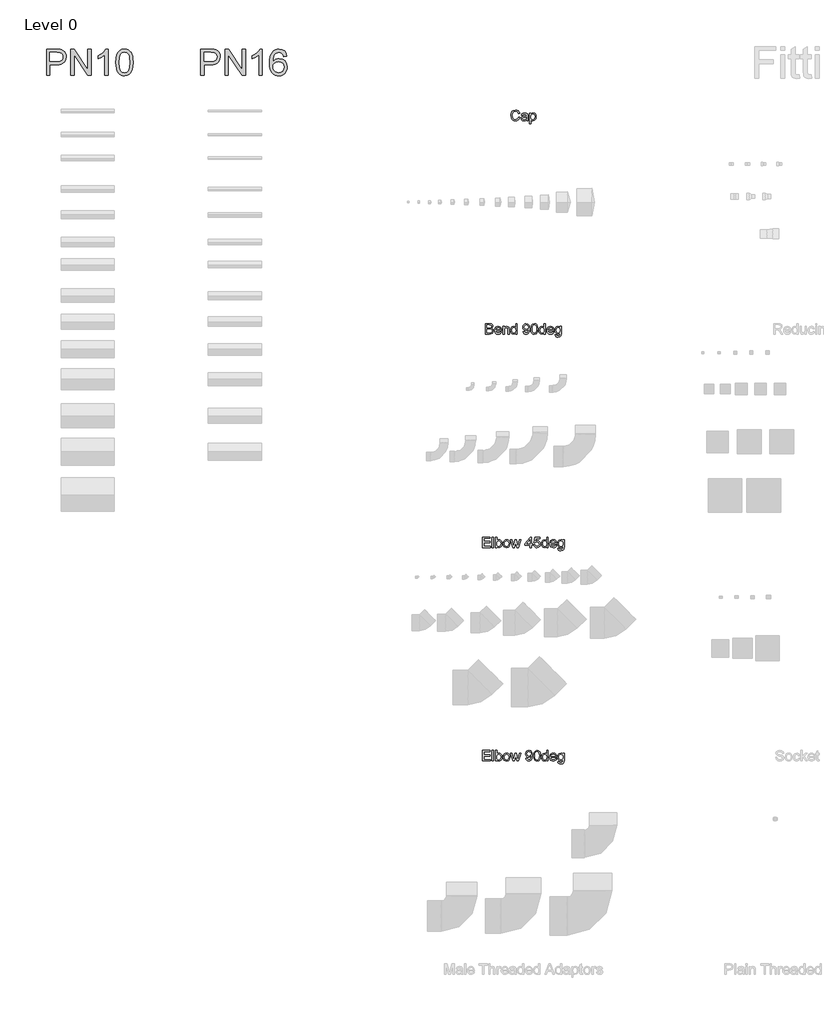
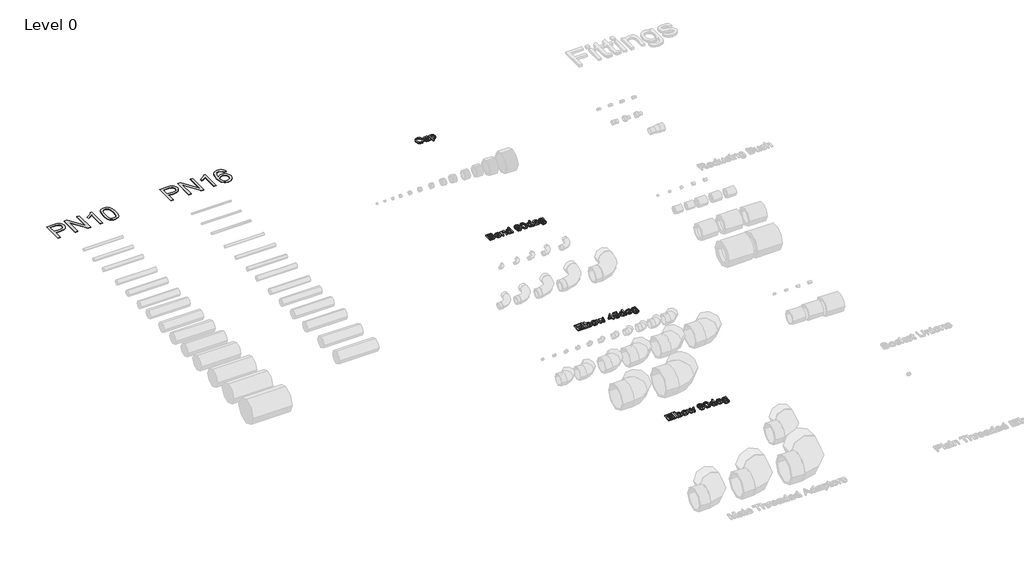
# One storey, part 5 of 12: 6 proxies.
"""IFC4 building model written with IfcOpenShell, lengths in millimetres."""

import ifcopenshell
import ifcopenshell.guid

model = None  # the IFC model being written
_history = None  # IfcOwnerHistory: only IFC2X3 demands one
_inside = {}  # id of a spatial element -> (the spatial element, [elements in it])
_under = {}  # id of a project, library or spatial element -> (it, [spatial elements below it])
_declared = {}  # id of a project -> (the project, [libraries it declares])
_typed = {}  # id of a type object -> (the type object, [elements of that type])
_made_of = {}  # id of a material, layer set ... -> (it, [elements and type objects made of it])


def new_model(schema):
    """Start an empty IFC model of exactly this schema.

    Asked for "IFC4X3", IfcOpenShell would pick the latest addendum, in which some entities
    have other attributes; the version numbers below select the first issue.
    IFC2X3 requires an IfcOwnerHistory on every rooted entity: one is made here for all.
    """
    global model, _history
    if schema == "IFC4X3":
        model = ifcopenshell.file(schema_version=(4, 3, 0, 0))
    else:
        model = ifcopenshell.file(schema=schema)
    _inside.clear()
    _under.clear()
    _declared.clear()
    _typed.clear()
    _made_of.clear()
    _history = None
    if model.schema == "IFC2X3":
        org = make("IfcOrganization", Name="unknown")
        user = make(
            "IfcPersonAndOrganization",
            ThePerson=make("IfcPerson", FamilyName="unknown"),
            TheOrganization=org,
        )
        app = make(
            "IfcApplication",
            ApplicationDeveloper=org,
            Version="unknown",
            ApplicationFullName="unknown",
            ApplicationIdentifier="unknown",
        )
        _history = make(
            "IfcOwnerHistory",
            OwningUser=user,
            OwningApplication=app,
            ChangeAction="ADDED",
            CreationDate=0,
        )
    return model


def make(cls, **values):
    """One entity of the class cls with the attributes given. An attribute that is None is left unset."""
    return model.create_entity(
        cls, **{name: value for name, value in values.items() if value is not None}
    )


def rooted(cls, **values):
    """An entity with a GlobalId (a new one), such as an element, a storey or a relation."""
    return make(cls, GlobalId=ifcopenshell.guid.new(), OwnerHistory=_history, **values)


def si_unit(unit_type, name, prefix=None):
    """IfcSIUnit, for example si_unit("LENGTHUNIT", "METRE", prefix="MILLI")."""
    return make("IfcSIUnit", UnitType=unit_type, Prefix=prefix, Name=name)


def assignment(units):
    """IfcUnitAssignment: the units of a project."""
    return None if units is None else make("IfcUnitAssignment", Units=units)


def point(xyz):
    """IfcCartesianPoint."""
    return None if xyz is None else make("IfcCartesianPoint", Coordinates=xyz)


def direction(xyz):
    """IfcDirection."""
    return None if xyz is None else make("IfcDirection", DirectionRatios=xyz)


def frame(location, z_axis=None, x_axis=None):
    """IfcAxis2Placement3D, a coordinate frame: its origin and axes. An axis left out is left unset."""
    return make(
        "IfcAxis2Placement3D",
        Location=point(location),
        Axis=direction(z_axis),
        RefDirection=direction(x_axis),
    )


def origin():
    """The frame at (0, 0, 0) with its axes left unset."""
    return frame((0.0, 0.0, 0.0))


def origin_with_axes():
    """The frame at (0, 0, 0) with the z axis (0, 0, 1) and the x axis (1, 0, 0) written out."""
    return frame((0.0, 0.0, 0.0), z_axis=(0.0, 0.0, 1.0), x_axis=(1.0, 0.0, 0.0))


def place(relative_to, where):
    """IfcLocalPlacement: puts the frame where relative to a parent placement (None: the world)."""
    return make(
        "IfcLocalPlacement", PlacementRelTo=relative_to, RelativePlacement=where
    )


def context(
    kind, dimensions, precision=None, world=None, true_north=None, identifier=None
):
    """IfcGeometricRepresentationContext, for example the 3D "Model" context."""
    return make(
        "IfcGeometricRepresentationContext",
        ContextIdentifier=identifier,
        ContextType=kind,
        CoordinateSpaceDimension=dimensions,
        Precision=precision,
        WorldCoordinateSystem=world,
        TrueNorth=true_north,
    )


def project(units=None, contexts=None):
    """IfcProject with its units and contexts."""
    return rooted(
        "IfcProject",
        Name="project",
        RepresentationContexts=contexts,
        UnitsInContext=assignment(units),
    )


def spatial(cls, under=None, at=None, **own):
    """A site, building, storey or space (cls), placed at a placement, below another one or the project."""
    s = rooted(cls, ObjectPlacement=at, **own)
    if under is not None:
        _under.setdefault(under.id(), (under, []))[1].append(s)
    return s


def polyline(points):
    """IfcPolyline through the points."""
    return make("IfcPolyline", Points=[point(p) for p in points])


def outline(outer, holes=None, kind="AREA"):
    """IfcArbitraryClosedProfileDef: a profile drawn as a closed curve; with holes, ...WithVoids."""
    if holes is None:
        return make("IfcArbitraryClosedProfileDef", ProfileType=kind, OuterCurve=outer)
    return make(
        "IfcArbitraryProfileDefWithVoids",
        ProfileType=kind,
        OuterCurve=outer,
        InnerCurves=holes,
    )


def extrude(swept, where, along, depth):
    """IfcExtrudedAreaSolid: the profile swept, set in the frame where, extruded along a direction by depth."""
    return make(
        "IfcExtrudedAreaSolid",
        SweptArea=swept,
        Position=where,
        ExtrudedDirection=direction(along),
        Depth=depth,
    )


def shape(context_of_items, identifier, shape_type, items):
    """IfcShapeRepresentation: the items that make up one representation, for example the "Body"."""
    return make(
        "IfcShapeRepresentation",
        ContextOfItems=context_of_items,
        RepresentationIdentifier=identifier,
        RepresentationType=shape_type,
        Items=items,
    )


def made_of(thing, what):
    """Note that an element or type object is made of a material, layer set ...; save() writes the relation."""
    if what is not None:
        _made_of.setdefault(what.id(), (what, []))[1].append(thing)
    return thing


def element(
    cls,
    number,
    at=None,
    inside=None,
    cuts=None,
    type_object=None,
    material=None,
    context=None,
    identifier="Body",
    shape_type=None,
    held_by="IfcProductDefinitionShape",
    body=None,
    shapes=None,
    **own,
):
    """One element of the class cls, such as IfcWall. Its Tag is "e" and its number.

    at: its placement. inside: the storey or other place that contains it. cuts: it is an
    opening in that element (IfcRelVoidsElement). A single representation is given by context,
    identifier, shape_type and body (its items); several are given by shapes. held_by: the class
    of the entity that holds the representations. save() writes the other relations.
    """
    e = rooted(cls, Tag="e%d" % number, ObjectPlacement=at, **own)
    if body is not None:
        shapes = [shape(context, identifier, shape_type, body)]
    if shapes is not None:
        e.Representation = make(held_by, Representations=shapes)
    if inside is not None:
        _inside.setdefault(inside.id(), (inside, []))[1].append(e)
    if cuts is not None:
        rooted(
            "IfcRelVoidsElement", RelatingBuildingElement=cuts, RelatedOpeningElement=e
        )
    if type_object is not None:
        _typed.setdefault(type_object.id(), (type_object, []))[1].append(e)
    return made_of(e, material)


def aggregate(whole, parts):
    """IfcRelAggregates: a whole, such as a stair, and the parts it consists of."""
    return rooted("IfcRelAggregates", RelatingObject=whole, RelatedObjects=parts)


def save(model, path):
    """Write the relations noted so far, then the file.

    IfcRelAggregates (storeys below a building ...), IfcRelContainedInSpatialStructure (elements
    in a storey), IfcRelDefinesByType, IfcRelAssociatesMaterial and IfcRelDeclares: one each for
    every whole, place, type object, material and project.
    """
    for whole, parts in _under.values():
        aggregate(whole, parts)
    for where, things in _inside.values():
        rooted(
            "IfcRelContainedInSpatialStructure",
            RelatedElements=things,
            RelatingStructure=where,
        )
    for kind, things in _typed.values():
        rooted("IfcRelDefinesByType", RelatedObjects=things, RelatingType=kind)
    for what, things in _made_of.values():
        rooted("IfcRelAssociatesMaterial", RelatedObjects=things, RelatingMaterial=what)
    for by, libraries in _declared.values():
        rooted("IfcRelDeclares", RelatingContext=by, RelatedDefinitions=libraries)
    model.write(path)


model = new_model("IFC4")

# Units and contexts
model_context = context("Model", 3, world=origin())
ifc_project = project(units=[si_unit("LENGTHUNIT", "METRE", prefix="MILLI")], contexts=[model_context])

# Site, building, storey
site = spatial("IfcSite", under=ifc_project)
building = spatial("IfcBuilding", under=site)
storey = spatial("IfcBuildingStorey", under=building, Name="Level 0", Elevation=0.0)

# Proxies
placement = place(None, origin())
element("IfcBuildingElementProxy", 1, Name="150mm Arial", ObjectType="150mm Arial", at=placement, inside=storey, context=model_context, shape_type="SweptSolid", body=[
    extrude(outline(polyline([(-16281.8130996, 8980.7253457), (-16269.5054073, 8977.5522688), (-16275.1844939, 8963.2103217), (-16284.0967535, 8952.7325573), (-16295.8034843, 8946.3233025), (-16309.8659843, 8944.1868842), (-16324.1418256, 8945.8034707), (-16335.478965, 8950.6532304), (-16344.1688689, 8958.5678938), (-16350.5030035, 8969.3791919), (-16355.6592535, 8995.7013073), (-16354.2019218, 9010.0582784), (-16349.8299266, 9022.456115), (-16342.7716333, 9032.5011871), (-16333.2554073, 9039.799865), (-16309.6015612, 9045.7253457), (-16296.1069698, 9043.8082784), (-16284.9501189, 9038.0570765), (-16276.479566, 9028.8263073), (-16271.0438689, 9016.470538), (-16283.3515612, 9013.5378457), (-16293.447715, 9028.6700573), (-16310.0823304, 9033.4176534), (-16329.3371381, 9028.1532304), (-16340.2145419, 9014.018615), (-16343.3515612, 8995.7253457), (-16339.6376189, 8974.5234227), (-16328.0751189, 8960.9777496), (-16311.0919458, 8956.4945765), (-16300.8185083, 8958.0210188), (-16292.2578112, 8962.6003457), (-16285.7944698, 8970.1844804), (-16281.8130996, 8980.7253457)])), origin_with_axes(), (0.0, 0.0, 1.0), 15.0),
    extrude(outline(polyline([(-16207.9669458, 8954.956115), (-16219.9020419, 8946.6147688), (-16233.0871381, 8944.1868842), (-16243.3725948, 8945.6472207), (-16250.9597343, 8950.0282304), (-16255.6382198, 8956.6808746), (-16257.197715, 8964.956115), (-16254.8419458, 8974.6916919), (-16248.6520419, 8981.7589996), (-16240.0342535, 8985.7974611), (-16229.385215, 8987.6484227), (-16208.0390612, 8991.8791919), (-16207.9669458, 8994.6195765), (-16211.3563689, 9003.706115), (-16224.9621381, 9007.2638073), (-16237.4140612, 9004.8960188), (-16243.3515612, 8996.4945765), (-16255.6592535, 8998.033038), (-16250.3347343, 9010.0522688), (-16239.6135804, 9017.095538), (-16223.3755996, 9019.5714996), (-16208.4597343, 9017.3839996), (-16200.0342535, 9011.8912111), (-16196.260215, 9003.5378457), (-16195.6592535, 8992.768615), (-16195.6592535, 8977.456115), (-16195.0342535, 8956.0739034), (-16192.5823304, 8945.7253457), (-16204.8900227, 8945.7253457), (-16207.9669458, 8954.956115)]), holes=[polyline([(-16207.9669458, 8979.5714996), (-16227.822715, 8975.7974611), (-16238.4116573, 8973.8022688), (-16243.2073304, 8970.5570765), (-16244.8900227, 8965.8214996), (-16241.2241573, 8959.1628457), (-16230.4669458, 8956.4945765), (-16218.0150227, 8959.439288), (-16209.9861766, 8966.5666919), (-16208.0390612, 8976.0859227), (-16207.9669458, 8979.5714996)])]), origin_with_axes(), (0.0, 0.0, 1.0), 15.0),
    extrude(outline(polyline([(-16178.7361766, 8918.033038), (-16178.7361766, 9018.033038), (-16166.4284843, 9018.033038), (-16166.4284843, 9005.9657304), (-16157.9188689, 9016.1700573), (-16146.4284843, 9019.5714996), (-16130.8275227, 9014.8118842), (-16120.635215, 9001.3984227), (-16117.197715, 8982.4320765), (-16121.0799266, 8962.4921727), (-16132.353965, 8948.9104419), (-16147.9188689, 8944.1868842), (-16158.6280035, 8947.3479419), (-16166.4284843, 8955.3407304), (-16166.4284843, 8918.033038), (-16178.7361766, 8918.033038)]), holes=[polyline([(-16166.4284843, 8981.3022688), (-16165.0973544, 8970.268615), (-16161.103965, 8962.5522688), (-16155.2115371, 8958.0089996), (-16148.1832919, 8956.4945765), (-16141.0408641, 8958.0630861), (-16134.9981958, 8962.768615), (-16130.8786044, 8970.767413), (-16129.5054073, 8982.2157304), (-16130.8455516, 8993.189288), (-16134.8659843, 9001.0138073), (-16140.7493977, 9005.7013073), (-16147.6784843, 9007.2638073), (-16154.6346141, 9005.6021486), (-16160.7433881, 9000.6171727), (-16165.0072102, 8992.4651294), (-16166.4284843, 8981.3022688)])]), origin_with_axes(), (0.0, 0.0, 1.0), 15.0),
])
element("IfcBuildingElementProxy", 2, Name="150mm Arial", ObjectType="150mm Arial", at=placement, inside=storey, context=model_context, shape_type="SweptSolid", body=[
    extrude(outline(polyline([(-16592.5823304, 6945.7253457), (-16592.5823304, 7044.1868842), (-16555.010215, 7044.1868842), (-16536.6087727, 7041.2902496), (-16525.7433881, 7032.3839996), (-16521.8130996, 7019.7878457), (-16525.1183881, 7008.2854419), (-16535.1063689, 6999.5714996), (-16522.978965, 6990.3888073), (-16518.7361766, 6975.0763073), (-16521.6328112, 6961.8431342), (-16528.8082919, 6952.4200573), (-16539.5174266, 6947.4200573), (-16555.2986766, 6945.7253457), (-16592.5823304, 6945.7253457)]), holes=[polyline([(-16580.2746381, 6958.033038), (-16555.0342535, 6958.033038), (-16545.8996381, 6958.5138073), (-16538.1712727, 6961.1940957), (-16533.0510804, 6966.6628457), (-16531.0438689, 6974.956115), (-16533.3996381, 6984.5234227), (-16541.0318496, 6990.2325573), (-16556.2361766, 6991.8791919), (-16580.2746381, 6991.8791919), (-16580.2746381, 6958.033038)]), polyline([(-16580.2746381, 7004.1868842), (-16557.7986766, 7004.1868842), (-16544.6736766, 7005.2445765), (-16536.7770419, 7009.799865), (-16534.1207919, 7017.8166919), (-16536.5967535, 7025.845538), (-16543.6880996, 7030.5931342), (-16559.5054073, 7031.8791919), (-16580.2746381, 7031.8791919), (-16580.2746381, 7004.1868842)])]), origin_with_axes(), (0.0, 0.0, 1.0), 15.0),
    extrude(outline(polyline([(-16452.7265612, 6967.2638073), (-16440.6592535, 6965.7253457), (-16445.0072102, 6956.6327977), (-16451.9453112, 6949.8359227), (-16461.3173064, 6945.5991438), (-16472.9669458, 6944.1868842), (-16487.4080516, 6946.6237832), (-16498.5198304, 6953.9344804), (-16505.6051669, 6965.6442159), (-16507.9669458, 6981.2782304), (-16505.5811285, 6997.4380861), (-16498.4236766, 7009.5234227), (-16487.4621381, 7017.0594804), (-16473.6640612, 7019.5714996), (-16460.2956718, 7017.06549), (-16449.6135804, 7009.5474611), (-16442.6093737, 6997.486163), (-16440.2746381, 6981.3503457), (-16440.3467535, 6978.033038), (-16495.6592535, 6978.033038), (-16493.5288448, 6968.8202977), (-16488.5799266, 6962.0474611), (-16472.7265612, 6956.4945765), (-16460.6592535, 6959.0666919), (-16452.7265612, 6967.2638073)]), holes=[polyline([(-16495.6592535, 6990.3407304), (-16452.5823304, 6990.3407304), (-16457.510215, 7001.4945765), (-16464.6856958, 7005.8214996), (-16473.7121381, 7007.2638073), (-16488.8683881, 7002.6604419), (-16495.6592535, 6990.3407304)])]), origin_with_axes(), (0.0, 0.0, 1.0), 15.0),
    extrude(outline(polyline([(-16427.9669458, 6945.7253457), (-16427.9669458, 7018.033038), (-16415.6592535, 7018.033038), (-16415.6592535, 7007.9368842), (-16406.2481958, 7016.6628457), (-16393.3996381, 7019.5714996), (-16381.7770419, 7017.2277496), (-16373.8443496, 7011.0739034), (-16370.1544458, 7002.0234227), (-16369.5054073, 6990.1243842), (-16369.5054073, 6945.7253457), (-16381.8130996, 6945.7253457), (-16381.8130996, 6988.4657304), (-16383.2313689, 6999.3551534), (-16388.2433881, 7005.112365), (-16396.6929073, 7007.2638073), (-16410.0462727, 7002.4320765), (-16414.2560083, 6995.4308746), (-16415.6592535, 6984.0907304), (-16415.6592535, 6945.7253457), (-16427.9669458, 6945.7253457)])), origin_with_axes(), (0.0, 0.0, 1.0), 15.0),
    extrude(outline(polyline([(-16307.9669458, 6945.7253457), (-16307.9669458, 6957.3359227), (-16316.1099746, 6947.4741438), (-16327.3659843, 6944.1868842), (-16342.6063689, 6948.9464996), (-16353.3755996, 6962.2277496), (-16357.197715, 6981.8070765), (-16353.6760804, 7001.3984227), (-16343.1231958, 7014.8839996), (-16327.4140612, 7019.5714996), (-16316.0679073, 7016.2181342), (-16307.9669458, 7007.5041919), (-16307.9669458, 7044.1868842), (-16295.6592535, 7044.1868842), (-16295.6592535, 6945.7253457), (-16307.9669458, 6945.7253457)]), holes=[polyline([(-16344.8900227, 6981.8551534), (-16343.5018016, 6970.7223409), (-16339.3371381, 6962.8046727), (-16333.2854554, 6958.0721005), (-16326.2361766, 6956.4945765), (-16319.1899025, 6957.9999852), (-16313.291465, 6962.5162111), (-16309.2980756, 6970.127389), (-16307.9669458, 6980.9176534), (-16309.3221141, 6992.7145284), (-16313.3876189, 7000.893615), (-16319.4362968, 7005.6712592), (-16326.7409843, 7007.2638073), (-16333.8623785, 7005.7343602), (-16339.697715, 7001.1460188), (-16343.5919458, 6993.2644082), (-16344.8900227, 6981.8551534)])]), origin_with_axes(), (0.0, 0.0, 1.0), 15.0),
    extrude(outline(polyline([(-16240.2746381, 6970.3407304), (-16227.9669458, 6971.8791919), (-16222.4380996, 6960.1364034), (-16211.9573304, 6956.4945765), (-16201.9933881, 6958.8383265), (-16195.2385804, 6965.1003457), (-16191.2121381, 6975.7974611), (-16189.4332919, 6990.0763073), (-16189.5054073, 6992.4801534), (-16199.3491573, 6983.1532304), (-16212.8467535, 6979.5714996), (-16224.0697102, 6981.7589996), (-16233.4116573, 6988.3214996), (-16239.7127391, 6998.4597207), (-16241.8130996, 7011.3743842), (-16239.6105756, 7024.7157304), (-16233.0030035, 7035.1724611), (-16223.0781237, 7041.9332784), (-16210.9236766, 7044.1868842), (-16193.3876189, 7039.0426534), (-16181.3203112, 7024.3791919), (-16177.197715, 6996.831115), (-16181.3082919, 6966.939288), (-16193.5318496, 6950.0041919), (-16202.338941, 6945.6412111), (-16212.5342535, 6944.1868842), (-16223.05709, 6945.9026294), (-16231.4525227, 6951.049865), (-16237.3239169, 6959.3040717), (-16240.2746381, 6970.3407304)]), holes=[polyline([(-16189.5054073, 7011.6628457), (-16194.8179073, 7026.4224611), (-16208.9284843, 7031.8791919), (-16217.1496381, 7030.4098409), (-16223.7361766, 7026.001788), (-16228.0630996, 7019.2559948), (-16229.5054073, 7010.7734227), (-16224.0486766, 6997.1315957), (-16209.2650227, 6991.8791919), (-16195.0703112, 6997.1315957), (-16190.8966333, 7003.3906102), (-16189.5054073, 7011.6628457)])]), origin_with_axes(), (0.0, 0.0, 1.0), 15.0),
    extrude(outline(polyline([(-16166.4284843, 6994.1628457), (-16162.8106958, 7022.4921727), (-16152.0655035, 7038.8263073), (-16134.1207919, 7044.1868842), (-16119.7457919, 7041.0138073), (-16109.8179073, 7031.8671727), (-16104.0486766, 7017.299865), (-16101.8130996, 6994.1628457), (-16105.3948304, 6965.9537111), (-16116.103965, 6949.5835188), (-16134.1207919, 6944.1868842), (-16146.9092535, 6946.5306342), (-16156.6207919, 6953.5618842), (-16163.9765612, 6970.2145284), (-16166.4284843, 6994.1628457)]), holes=[polyline([(-16154.1207919, 6994.1868842), (-16152.6784843, 6974.8269082), (-16148.3515612, 6963.6219804), (-16141.9092535, 6958.2764275), (-16134.1207919, 6956.4945765), (-16126.3323304, 6958.2824371), (-16119.8900227, 6963.6460188), (-16115.5630996, 6974.8569563), (-16114.1207919, 6994.1868842), (-16115.5150227, 7013.111163), (-16119.697715, 7024.4032304), (-16126.1280035, 7030.0102015), (-16134.2650227, 7031.8791919), (-16141.9693496, 7030.2325573), (-16148.1592535, 7025.2926534), (-16152.6304073, 7013.2974611), (-16154.1207919, 6994.1868842)])]), origin_with_axes(), (0.0, 0.0, 1.0), 15.0),
    extrude(outline(polyline([(-16043.3515612, 6945.7253457), (-16043.3515612, 6957.3359227), (-16051.49459, 6947.4741438), (-16062.7505996, 6944.1868842), (-16077.9909843, 6948.9464996), (-16088.760215, 6962.2277496), (-16092.5823304, 6981.8070765), (-16089.0606958, 7001.3984227), (-16078.5078112, 7014.8839996), (-16062.7986766, 7019.5714996), (-16051.4525227, 7016.2181342), (-16043.3515612, 7007.5041919), (-16043.3515612, 7044.1868842), (-16031.0438689, 7044.1868842), (-16031.0438689, 6945.7253457), (-16043.3515612, 6945.7253457)]), holes=[polyline([(-16080.2746381, 6981.8551534), (-16078.8864169, 6970.7223409), (-16074.7217535, 6962.8046727), (-16068.6700708, 6958.0721005), (-16061.6207919, 6956.4945765), (-16054.5745179, 6957.9999852), (-16048.6760804, 6962.5162111), (-16044.682691, 6970.127389), (-16043.3515612, 6980.9176534), (-16044.7067294, 6992.7145284), (-16048.7722343, 7000.893615), (-16054.8209121, 7005.6712592), (-16062.1255996, 7007.2638073), (-16069.2469939, 7005.7343602), (-16075.0823304, 7001.1460188), (-16078.9765612, 6993.2644082), (-16080.2746381, 6981.8551534)])]), origin_with_axes(), (0.0, 0.0, 1.0), 15.0),
    extrude(outline(polyline([(-15961.9573304, 6967.2638073), (-15949.8900227, 6965.7253457), (-15954.2379794, 6956.6327977), (-15961.1760804, 6949.8359227), (-15970.5480756, 6945.5991438), (-15982.197715, 6944.1868842), (-15996.6388208, 6946.6237832), (-16007.7505996, 6953.9344804), (-16014.8359362, 6965.6442159), (-16017.197715, 6981.2782304), (-16014.8118977, 6997.4380861), (-16007.6544458, 7009.5234227), (-15996.6929073, 7017.0594804), (-15982.8948304, 7019.5714996), (-15969.526441, 7017.06549), (-15958.8443496, 7009.5474611), (-15951.8401429, 6997.486163), (-15949.5054073, 6981.3503457), (-15949.5775227, 6978.033038), (-16004.8900227, 6978.033038), (-16002.7596141, 6968.8202977), (-15997.8106958, 6962.0474611), (-15981.9573304, 6956.4945765), (-15969.8900227, 6959.0666919), (-15961.9573304, 6967.2638073)]), holes=[polyline([(-16004.8900227, 6990.3407304), (-15961.8130996, 6990.3407304), (-15966.7409843, 7001.4945765), (-15973.916465, 7005.8214996), (-15982.9429073, 7007.2638073), (-15998.0991573, 7002.6604419), (-16004.8900227, 6990.3407304)])]), origin_with_axes(), (0.0, 0.0, 1.0), 15.0),
    extrude(outline(polyline([(-15940.2746381, 6939.5714996), (-15927.9669458, 6938.033038), (-15923.9765612, 6931.5426534), (-15912.0294458, 6928.8022688), (-15899.4332919, 6931.9032304), (-15893.4236766, 6940.6051534), (-15892.5823304, 6954.956115), (-15901.2481958, 6948.033038), (-15911.8130996, 6945.7253457), (-15924.5024025, 6948.4116438), (-15933.9645419, 6956.470538), (-15939.8509602, 6968.2854419), (-15941.8130996, 6982.2397688), (-15938.291465, 7001.314288), (-15928.0991573, 7014.8118842), (-15912.4140612, 7019.5714996), (-15901.4344939, 7016.8791919), (-15892.5823304, 7008.8022688), (-15892.5823304, 7018.033038), (-15880.2746381, 7018.033038), (-15880.2746381, 6955.6051534), (-15883.6400227, 6931.6989034), (-15894.3010804, 6920.581115), (-15912.2698304, 6916.4945765), (-15923.7211525, 6917.9338794), (-15932.7385804, 6922.251788), (-15938.5228352, 6929.4603217), (-15940.2746381, 6939.5714996)]), holes=[polyline([(-15929.5054073, 6983.081115), (-15928.1923064, 6971.7920525), (-15924.2530035, 6964.0306342), (-15918.3305275, 6959.5324371), (-15911.0679073, 6958.033038), (-15903.8593737, 6959.5234227), (-15897.9068496, 6963.9945765), (-15893.9134602, 6971.6568361), (-15892.5823304, 6982.720538), (-15893.9525227, 6993.3906102), (-15898.0630996, 7001.0739034), (-15904.1027631, 7005.7163313), (-15911.260215, 7007.2638073), (-15918.2884602, 7005.7403698), (-15924.1808881, 7001.1700573), (-15928.1742775, 6993.6009467), (-15929.5054073, 6983.081115)])]), origin_with_axes(), (0.0, 0.0, 1.0), 15.0),
])
element("IfcBuildingElementProxy", 3, Name="150mm Arial", ObjectType="150mm Arial", at=placement, inside=storey, context=model_context, shape_type="SweptSolid", body=[
    extrude(outline(polyline([(-16618.7361766, 4945.7253457), (-16618.7361766, 5044.1868842), (-16547.9669458, 5044.1868842), (-16547.9669458, 5031.8791919), (-16606.4284843, 5031.8791919), (-16606.4284843, 5002.6484227), (-16551.0438689, 5002.6484227), (-16551.0438689, 4990.3407304), (-16606.4284843, 4990.3407304), (-16606.4284843, 4958.033038), (-16546.4284843, 4958.033038), (-16546.4284843, 4945.7253457), (-16618.7361766, 4945.7253457)])), origin_with_axes(), (0.0, 0.0, 1.0), 15.0),
    extrude(outline(polyline([(-16529.5054073, 4945.7253457), (-16529.5054073, 5044.1868842), (-16517.197715, 5044.1868842), (-16517.197715, 4945.7253457), (-16529.5054073, 4945.7253457)])), origin_with_axes(), (0.0, 0.0, 1.0), 15.0),
    extrude(outline(polyline([(-16486.4284843, 4945.7253457), (-16498.7361766, 4945.7253457), (-16498.7361766, 5044.1868842), (-16486.4284843, 5044.1868842), (-16486.4284843, 5007.6724611), (-16477.8106958, 5016.59674), (-16467.1015612, 5019.5714996), (-16454.7698304, 5016.8912111), (-16445.2025227, 5009.3551534), (-16439.3251189, 4997.6364034), (-16437.197715, 4982.9609227), (-16439.4002391, 4966.5306342), (-16446.0078112, 4954.3070765), (-16455.7043256, 4946.7169323), (-16467.1736766, 4944.1868842), (-16478.1171862, 4947.4501054), (-16486.4284843, 4957.2397688), (-16486.4284843, 4945.7253457)]), holes=[polyline([(-16486.4284843, 4982.3839996), (-16483.0630996, 4965.1724611), (-16476.6147823, 4958.6640477), (-16468.2313689, 4956.4945765), (-16461.1280035, 4958.0931342), (-16455.0582919, 4962.8888073), (-16450.8936285, 4970.8515477), (-16449.5054073, 4981.9513073), (-16450.8365371, 4993.2133265), (-16454.8299266, 5001.0859227), (-16460.7103352, 5005.7193361), (-16467.7025227, 5007.2638073), (-16474.8058881, 5005.6652496), (-16480.8755996, 5000.8695765), (-16485.0402631, 4993.0510669), (-16486.4284843, 4982.3839996)])]), origin_with_axes(), (0.0, 0.0, 1.0), 15.0),
    extrude(outline(polyline([(-16426.4284843, 4981.8791919), (-16423.7662246, 4999.3130861), (-16415.7794458, 5011.5666919), (-16405.9116573, 5017.5702977), (-16394.0967535, 5019.5714996), (-16381.167066, 5017.1346005), (-16370.8395419, 5009.8239034), (-16364.0697102, 4998.2163313), (-16361.8130996, 4982.8888073), (-16365.8034843, 4960.9897688), (-16377.4260804, 4948.5979419), (-16394.0967535, 4944.1868842), (-16407.182691, 4946.6147688), (-16417.4981958, 4953.8984227), (-16424.1959121, 4965.7493842), (-16426.4284843, 4981.8791919)]), holes=[polyline([(-16414.1207919, 4981.9032304), (-16412.6965131, 4970.7644082), (-16408.4236766, 4962.8287111), (-16401.9933881, 4958.0781102), (-16394.0967535, 4956.4945765), (-16386.2361766, 4958.0871246), (-16379.8179073, 4962.8647688), (-16375.5450708, 4970.9056342), (-16374.1207919, 4982.2878457), (-16375.5540852, 4993.1021486), (-16379.853965, 5000.9296727), (-16386.2812487, 5005.6802736), (-16394.0967535, 5007.2638073), (-16401.9933881, 5005.6862832), (-16408.4236766, 5000.9537111), (-16412.6965131, 4993.0360429), (-16414.1207919, 4981.9032304)])]), origin_with_axes(), (0.0, 0.0, 1.0), 15.0),
    extrude(outline(polyline([(-16335.9717535, 4945.7253457), (-16357.9669458, 5018.033038), (-16345.1784843, 5018.033038), (-16332.7025227, 4975.845538), (-16328.9765612, 4960.7734227), (-16325.9236766, 4975.2926534), (-16315.9957919, 5018.033038), (-16301.3323304, 5018.033038), (-16291.4525227, 4975.4128457), (-16288.7361766, 4962.2638073), (-16284.8419458, 4976.1339996), (-16272.3419458, 5018.033038), (-16259.5054073, 5018.033038), (-16281.6688689, 4945.7253457), (-16296.5486766, 4945.7253457), (-16305.9957919, 4988.1291919), (-16308.7361766, 5001.3503457), (-16320.9236766, 4945.7253457), (-16335.9717535, 4945.7253457)])), origin_with_axes(), (0.0, 0.0, 1.0), 15.0),
    extrude(outline(polyline([(-16175.6592535, 4945.7253457), (-16175.6592535, 4968.8022688), (-16220.2746381, 4968.8022688), (-16220.2746381, 4981.1099611), (-16172.5823304, 5042.6484227), (-16163.3515612, 5042.6484227), (-16163.3515612, 4981.1099611), (-16151.0438689, 4981.1099611), (-16151.0438689, 4968.8022688), (-16163.3515612, 4968.8022688), (-16163.3515612, 4945.7253457), (-16175.6592535, 4945.7253457)]), holes=[polyline([(-16175.6592535, 4981.1099611), (-16175.6592535, 5019.1388073), (-16205.1304073, 4981.1099611), (-16175.6592535, 4981.1099611)])]), origin_with_axes(), (0.0, 0.0, 1.0), 15.0),
    extrude(outline(polyline([(-16140.2746381, 4971.8791919), (-16127.9669458, 4973.4176534), (-16121.7650227, 4960.737365), (-16108.9044458, 4956.4945765), (-16100.0823304, 4957.9699371), (-16093.4717535, 4962.3960188), (-16089.3431477, 4969.2620044), (-16087.9669458, 4978.0570765), (-16093.1231958, 4992.6724611), (-16099.5985564, 4996.6928938), (-16108.7121381, 4998.033038), (-16119.5174266, 4995.893615), (-16126.4284843, 4990.3407304), (-16138.7361766, 4991.8791919), (-16127.9669458, 5042.6484227), (-16080.2746381, 5042.6484227), (-16080.2746381, 5030.3407304), (-16118.0150227, 5030.3407304), (-16123.2794458, 5003.2253457), (-16114.4873785, 5008.5618842), (-16105.2746381, 5010.3407304), (-16093.7752391, 5008.1352015), (-16084.228965, 5001.518615), (-16077.8016814, 4991.4344804), (-16075.6592535, 4978.8263073), (-16077.58834, 4966.518615), (-16083.3755996, 4955.9897688), (-16094.4573304, 4947.1376054), (-16108.9525227, 4944.1868842), (-16121.0408641, 4946.0829179), (-16130.6712727, 4951.7710188), (-16137.2728352, 4960.5901294), (-16140.2746381, 4971.8791919)])), origin_with_axes(), (0.0, 0.0, 1.0), 15.0),
    extrude(outline(polyline([(-16017.197715, 4945.7253457), (-16017.197715, 4957.3359227), (-16025.3407439, 4947.4741438), (-16036.5967535, 4944.1868842), (-16051.8371381, 4948.9464996), (-16062.6063689, 4962.2277496), (-16066.4284843, 4981.8070765), (-16062.9068496, 5001.3984227), (-16052.353965, 5014.8839996), (-16036.6448304, 5019.5714996), (-16025.2986766, 5016.2181342), (-16017.197715, 5007.5041919), (-16017.197715, 5044.1868842), (-16004.8900227, 5044.1868842), (-16004.8900227, 4945.7253457), (-16017.197715, 4945.7253457)]), holes=[polyline([(-16054.1207919, 4981.8551534), (-16052.7325708, 4970.7223409), (-16048.5679073, 4962.8046727), (-16042.5162246, 4958.0721005), (-16035.4669458, 4956.4945765), (-16028.4206718, 4957.9999852), (-16022.5222343, 4962.5162111), (-16018.5288448, 4970.127389), (-16017.197715, 4980.9176534), (-16018.5528833, 4992.7145284), (-16022.6183881, 5000.893615), (-16028.667066, 5005.6712592), (-16035.9717535, 5007.2638073), (-16043.0931477, 5005.7343602), (-16048.9284843, 5001.1460188), (-16052.822715, 4993.2644082), (-16054.1207919, 4981.8551534)])]), origin_with_axes(), (0.0, 0.0, 1.0), 15.0),
    extrude(outline(polyline([(-15935.8034843, 4967.2638073), (-15923.7361766, 4965.7253457), (-15928.0841333, 4956.6327977), (-15935.0222343, 4949.8359227), (-15944.3942294, 4945.5991438), (-15956.0438689, 4944.1868842), (-15970.4849746, 4946.6237832), (-15981.5967535, 4953.9344804), (-15988.68209, 4965.6442159), (-15991.0438689, 4981.2782304), (-15988.6580516, 4997.4380861), (-15981.5005996, 5009.5234227), (-15970.5390612, 5017.0594804), (-15956.7409843, 5019.5714996), (-15943.3725948, 5017.06549), (-15932.6905035, 5009.5474611), (-15925.6862968, 4997.486163), (-15923.3515612, 4981.3503457), (-15923.4236766, 4978.033038), (-15978.7361766, 4978.033038), (-15976.6057679, 4968.8202977), (-15971.6568496, 4962.0474611), (-15955.8034843, 4956.4945765), (-15943.7361766, 4959.0666919), (-15935.8034843, 4967.2638073)]), holes=[polyline([(-15978.7361766, 4990.3407304), (-15935.6592535, 4990.3407304), (-15940.5871381, 5001.4945765), (-15947.7626189, 5005.8214996), (-15956.7890612, 5007.2638073), (-15971.9453112, 5002.6604419), (-15978.7361766, 4990.3407304)])]), origin_with_axes(), (0.0, 0.0, 1.0), 15.0),
    extrude(outline(polyline([(-15914.1207919, 4939.5714996), (-15901.8130996, 4938.033038), (-15897.822715, 4931.5426534), (-15885.8755996, 4928.8022688), (-15873.2794458, 4931.9032304), (-15867.2698304, 4940.6051534), (-15866.4284843, 4954.956115), (-15875.0943496, 4948.033038), (-15885.6592535, 4945.7253457), (-15898.3485564, 4948.4116438), (-15907.8106958, 4956.470538), (-15913.6971141, 4968.2854419), (-15915.6592535, 4982.2397688), (-15912.1376189, 5001.314288), (-15901.9453112, 5014.8118842), (-15886.260215, 5019.5714996), (-15875.2806477, 5016.8791919), (-15866.4284843, 5008.8022688), (-15866.4284843, 5018.033038), (-15854.1207919, 5018.033038), (-15854.1207919, 4955.6051534), (-15857.4861766, 4931.6989034), (-15868.1472343, 4920.581115), (-15886.1159843, 4916.4945765), (-15897.5673064, 4917.9338794), (-15906.5847343, 4922.251788), (-15912.3689891, 4929.4603217), (-15914.1207919, 4939.5714996)]), holes=[polyline([(-15903.3515612, 4983.081115), (-15902.0384602, 4971.7920525), (-15898.0991573, 4964.0306342), (-15892.1766814, 4959.5324371), (-15884.9140612, 4958.033038), (-15877.7055275, 4959.5234227), (-15871.7530035, 4963.9945765), (-15867.7596141, 4971.6568361), (-15866.4284843, 4982.720538), (-15867.7986766, 4993.3906102), (-15871.9092535, 5001.0739034), (-15877.9489169, 5005.7163313), (-15885.1063689, 5007.2638073), (-15892.1346141, 5005.7403698), (-15898.0270419, 5001.1700573), (-15902.0204314, 4993.6009467), (-15903.3515612, 4983.081115)])]), origin_with_axes(), (0.0, 0.0, 1.0), 15.0),
])
element("IfcBuildingElementProxy", 4, Name="150mm Arial", ObjectType="150mm Arial", at=placement, inside=storey, context=model_context, shape_type="SweptSolid", body=[
    extrude(outline(polyline([(-16618.7361766, 2945.7253457), (-16618.7361766, 3044.1868842), (-16547.9669458, 3044.1868842), (-16547.9669458, 3031.8791919), (-16606.4284843, 3031.8791919), (-16606.4284843, 3002.6484227), (-16551.0438689, 3002.6484227), (-16551.0438689, 2990.3407304), (-16606.4284843, 2990.3407304), (-16606.4284843, 2958.033038), (-16546.4284843, 2958.033038), (-16546.4284843, 2945.7253457), (-16618.7361766, 2945.7253457)])), origin_with_axes(), (0.0, 0.0, 1.0), 15.0),
    extrude(outline(polyline([(-16529.5054073, 2945.7253457), (-16529.5054073, 3044.1868842), (-16517.197715, 3044.1868842), (-16517.197715, 2945.7253457), (-16529.5054073, 2945.7253457)])), origin_with_axes(), (0.0, 0.0, 1.0), 15.0),
    extrude(outline(polyline([(-16486.4284843, 2945.7253457), (-16498.7361766, 2945.7253457), (-16498.7361766, 3044.1868842), (-16486.4284843, 3044.1868842), (-16486.4284843, 3007.6724611), (-16477.8106958, 3016.59674), (-16467.1015612, 3019.5714996), (-16454.7698304, 3016.8912111), (-16445.2025227, 3009.3551534), (-16439.3251189, 2997.6364034), (-16437.197715, 2982.9609227), (-16439.4002391, 2966.5306342), (-16446.0078112, 2954.3070765), (-16455.7043256, 2946.7169323), (-16467.1736766, 2944.1868842), (-16478.1171862, 2947.4501054), (-16486.4284843, 2957.2397688), (-16486.4284843, 2945.7253457)]), holes=[polyline([(-16486.4284843, 2982.3839996), (-16483.0630996, 2965.1724611), (-16476.6147823, 2958.6640477), (-16468.2313689, 2956.4945765), (-16461.1280035, 2958.0931342), (-16455.0582919, 2962.8888073), (-16450.8936285, 2970.8515477), (-16449.5054073, 2981.9513073), (-16450.8365371, 2993.2133265), (-16454.8299266, 3001.0859227), (-16460.7103352, 3005.7193361), (-16467.7025227, 3007.2638073), (-16474.8058881, 3005.6652496), (-16480.8755996, 3000.8695765), (-16485.0402631, 2993.0510669), (-16486.4284843, 2982.3839996)])]), origin_with_axes(), (0.0, 0.0, 1.0), 15.0),
    extrude(outline(polyline([(-16426.4284843, 2981.8791919), (-16423.7662246, 2999.3130861), (-16415.7794458, 3011.5666919), (-16405.9116573, 3017.5702977), (-16394.0967535, 3019.5714996), (-16381.167066, 3017.1346005), (-16370.8395419, 3009.8239034), (-16364.0697102, 2998.2163313), (-16361.8130996, 2982.8888073), (-16365.8034843, 2960.9897688), (-16377.4260804, 2948.5979419), (-16394.0967535, 2944.1868842), (-16407.182691, 2946.6147688), (-16417.4981958, 2953.8984227), (-16424.1959121, 2965.7493842), (-16426.4284843, 2981.8791919)]), holes=[polyline([(-16414.1207919, 2981.9032304), (-16412.6965131, 2970.7644082), (-16408.4236766, 2962.8287111), (-16401.9933881, 2958.0781102), (-16394.0967535, 2956.4945765), (-16386.2361766, 2958.0871246), (-16379.8179073, 2962.8647688), (-16375.5450708, 2970.9056342), (-16374.1207919, 2982.2878457), (-16375.5540852, 2993.1021486), (-16379.853965, 3000.9296727), (-16386.2812487, 3005.6802736), (-16394.0967535, 3007.2638073), (-16401.9933881, 3005.6862832), (-16408.4236766, 3000.9537111), (-16412.6965131, 2993.0360429), (-16414.1207919, 2981.9032304)])]), origin_with_axes(), (0.0, 0.0, 1.0), 15.0),
    extrude(outline(polyline([(-16335.9717535, 2945.7253457), (-16357.9669458, 3018.033038), (-16345.1784843, 3018.033038), (-16332.7025227, 2975.845538), (-16328.9765612, 2960.7734227), (-16325.9236766, 2975.2926534), (-16315.9957919, 3018.033038), (-16301.3323304, 3018.033038), (-16291.4525227, 2975.4128457), (-16288.7361766, 2962.2638073), (-16284.8419458, 2976.1339996), (-16272.3419458, 3018.033038), (-16259.5054073, 3018.033038), (-16281.6688689, 2945.7253457), (-16296.5486766, 2945.7253457), (-16305.9957919, 2988.1291919), (-16308.7361766, 3001.3503457), (-16320.9236766, 2945.7253457), (-16335.9717535, 2945.7253457)])), origin_with_axes(), (0.0, 0.0, 1.0), 15.0),
    extrude(outline(polyline([(-16214.1207919, 2970.3407304), (-16201.8130996, 2971.8791919), (-16196.2842535, 2960.1364034), (-16185.8034843, 2956.4945765), (-16175.8395419, 2958.8383265), (-16169.0847343, 2965.1003457), (-16165.0582919, 2975.7974611), (-16163.2794458, 2990.0763073), (-16163.3515612, 2992.4801534), (-16173.1953112, 2983.1532304), (-16186.6929073, 2979.5714996), (-16197.9158641, 2981.7589996), (-16207.2578112, 2988.3214996), (-16213.5588929, 2998.4597207), (-16215.6592535, 3011.3743842), (-16213.4567294, 3024.7157304), (-16206.8491573, 3035.1724611), (-16196.9242775, 3041.9332784), (-16184.7698304, 3044.1868842), (-16167.2337727, 3039.0426534), (-16155.166465, 3024.3791919), (-16151.0438689, 2996.831115), (-16155.1544458, 2966.939288), (-16167.3780035, 2950.0041919), (-16176.1850948, 2945.6412111), (-16186.3804073, 2944.1868842), (-16196.9032439, 2945.9026294), (-16205.2986766, 2951.049865), (-16211.1700708, 2959.3040717), (-16214.1207919, 2970.3407304)]), holes=[polyline([(-16163.3515612, 3011.6628457), (-16168.6640612, 3026.4224611), (-16182.7746381, 3031.8791919), (-16190.9957919, 3030.4098409), (-16197.5823304, 3026.001788), (-16201.9092535, 3019.2559948), (-16203.3515612, 3010.7734227), (-16197.8948304, 2997.1315957), (-16183.1111766, 2991.8791919), (-16168.916465, 2997.1315957), (-16164.7427871, 3003.3906102), (-16163.3515612, 3011.6628457)])]), origin_with_axes(), (0.0, 0.0, 1.0), 15.0),
    extrude(outline(polyline([(-16140.2746381, 2994.1628457), (-16136.6568496, 3022.4921727), (-16125.9116573, 3038.8263073), (-16107.9669458, 3044.1868842), (-16093.5919458, 3041.0138073), (-16083.6640612, 3031.8671727), (-16077.8948304, 3017.299865), (-16075.6592535, 2994.1628457), (-16079.2409843, 2965.9537111), (-16089.9501189, 2949.5835188), (-16107.9669458, 2944.1868842), (-16120.7554073, 2946.5306342), (-16130.4669458, 2953.5618842), (-16137.822715, 2970.2145284), (-16140.2746381, 2994.1628457)]), holes=[polyline([(-16127.9669458, 2994.1868842), (-16126.5246381, 2974.8269082), (-16122.197715, 2963.6219804), (-16115.7554073, 2958.2764275), (-16107.9669458, 2956.4945765), (-16100.1784843, 2958.2824371), (-16093.7361766, 2963.6460188), (-16089.4092535, 2974.8569563), (-16087.9669458, 2994.1868842), (-16089.3611766, 3013.111163), (-16093.5438689, 3024.4032304), (-16099.9741573, 3030.0102015), (-16108.1111766, 3031.8791919), (-16115.8155035, 3030.2325573), (-16122.0054073, 3025.2926534), (-16126.4765612, 3013.2974611), (-16127.9669458, 2994.1868842)])]), origin_with_axes(), (0.0, 0.0, 1.0), 15.0),
    extrude(outline(polyline([(-16017.197715, 2945.7253457), (-16017.197715, 2957.3359227), (-16025.3407439, 2947.4741438), (-16036.5967535, 2944.1868842), (-16051.8371381, 2948.9464996), (-16062.6063689, 2962.2277496), (-16066.4284843, 2981.8070765), (-16062.9068496, 3001.3984227), (-16052.353965, 3014.8839996), (-16036.6448304, 3019.5714996), (-16025.2986766, 3016.2181342), (-16017.197715, 3007.5041919), (-16017.197715, 3044.1868842), (-16004.8900227, 3044.1868842), (-16004.8900227, 2945.7253457), (-16017.197715, 2945.7253457)]), holes=[polyline([(-16054.1207919, 2981.8551534), (-16052.7325708, 2970.7223409), (-16048.5679073, 2962.8046727), (-16042.5162246, 2958.0721005), (-16035.4669458, 2956.4945765), (-16028.4206718, 2957.9999852), (-16022.5222343, 2962.5162111), (-16018.5288448, 2970.127389), (-16017.197715, 2980.9176534), (-16018.5528833, 2992.7145284), (-16022.6183881, 3000.893615), (-16028.667066, 3005.6712592), (-16035.9717535, 3007.2638073), (-16043.0931477, 3005.7343602), (-16048.9284843, 3001.1460188), (-16052.822715, 2993.2644082), (-16054.1207919, 2981.8551534)])]), origin_with_axes(), (0.0, 0.0, 1.0), 15.0),
    extrude(outline(polyline([(-15935.8034843, 2967.2638073), (-15923.7361766, 2965.7253457), (-15928.0841333, 2956.6327977), (-15935.0222343, 2949.8359227), (-15944.3942294, 2945.5991438), (-15956.0438689, 2944.1868842), (-15970.4849746, 2946.6237832), (-15981.5967535, 2953.9344804), (-15988.68209, 2965.6442159), (-15991.0438689, 2981.2782304), (-15988.6580516, 2997.4380861), (-15981.5005996, 3009.5234227), (-15970.5390612, 3017.0594804), (-15956.7409843, 3019.5714996), (-15943.3725948, 3017.06549), (-15932.6905035, 3009.5474611), (-15925.6862968, 2997.486163), (-15923.3515612, 2981.3503457), (-15923.4236766, 2978.033038), (-15978.7361766, 2978.033038), (-15976.6057679, 2968.8202977), (-15971.6568496, 2962.0474611), (-15955.8034843, 2956.4945765), (-15943.7361766, 2959.0666919), (-15935.8034843, 2967.2638073)]), holes=[polyline([(-15978.7361766, 2990.3407304), (-15935.6592535, 2990.3407304), (-15940.5871381, 3001.4945765), (-15947.7626189, 3005.8214996), (-15956.7890612, 3007.2638073), (-15971.9453112, 3002.6604419), (-15978.7361766, 2990.3407304)])]), origin_with_axes(), (0.0, 0.0, 1.0), 15.0),
    extrude(outline(polyline([(-15914.1207919, 2939.5714996), (-15901.8130996, 2938.033038), (-15897.822715, 2931.5426534), (-15885.8755996, 2928.8022688), (-15873.2794458, 2931.9032304), (-15867.2698304, 2940.6051534), (-15866.4284843, 2954.956115), (-15875.0943496, 2948.033038), (-15885.6592535, 2945.7253457), (-15898.3485564, 2948.4116438), (-15907.8106958, 2956.470538), (-15913.6971141, 2968.2854419), (-15915.6592535, 2982.2397688), (-15912.1376189, 3001.314288), (-15901.9453112, 3014.8118842), (-15886.260215, 3019.5714996), (-15875.2806477, 3016.8791919), (-15866.4284843, 3008.8022688), (-15866.4284843, 3018.033038), (-15854.1207919, 3018.033038), (-15854.1207919, 2955.6051534), (-15857.4861766, 2931.6989034), (-15868.1472343, 2920.581115), (-15886.1159843, 2916.4945765), (-15897.5673064, 2917.9338794), (-15906.5847343, 2922.251788), (-15912.3689891, 2929.4603217), (-15914.1207919, 2939.5714996)]), holes=[polyline([(-15903.3515612, 2983.081115), (-15902.0384602, 2971.7920525), (-15898.0991573, 2964.0306342), (-15892.1766814, 2959.5324371), (-15884.9140612, 2958.033038), (-15877.7055275, 2959.5234227), (-15871.7530035, 2963.9945765), (-15867.7596141, 2971.6568361), (-15866.4284843, 2982.720538), (-15867.7986766, 2993.3906102), (-15871.9092535, 3001.0739034), (-15877.9489169, 3005.7163313), (-15885.1063689, 3007.2638073), (-15892.1346141, 3005.7403698), (-15898.0270419, 3001.1700573), (-15902.0204314, 2993.6009467), (-15903.3515612, 2983.081115)])]), origin_with_axes(), (0.0, 0.0, 1.0), 15.0),
])
element("IfcBuildingElementProxy", 5, Name="250mm Arial", ObjectType="250mm Arial", at=placement, inside=storey, context=model_context, shape_type="SweptSolid", body=[
    extrude(outline(polyline([(-20708.7395068, 9370.7253457), (-20708.7395068, 9616.8791919), (-20617.5135452, 9616.8791919), (-20580.7346991, 9614.5354419), (-20564.3359611, 9610.1559347), (-20550.8368625, 9603.0270284), (-20539.9669707, 9592.8257063), (-20531.4558529, 9579.2289515), (-20525.9570548, 9563.1907904), (-20524.1241222, 9545.6652496), (-20529.0745428, 9516.6538313), (-20543.9258048, 9492.4801534), (-20555.8192093, 9482.9624251), (-20571.6977399, 9476.1640477), (-20591.5613968, 9472.0850212), (-20615.4101798, 9470.7253457), (-20677.970276, 9470.7253457), (-20677.970276, 9370.7253457), (-20708.7395068, 9370.7253457)]), holes=[polyline([(-20677.970276, 9501.4945765), (-20613.6072952, 9501.4945765), (-20586.3236414, 9504.3190957), (-20568.2947952, 9512.7926534), (-20558.2437135, 9526.3894082), (-20554.8933529, 9544.5835188), (-20556.869014, 9558.4056342), (-20562.7959972, 9570.064288), (-20571.9381246, 9578.8383265), (-20583.5592183, 9584.0065957), (-20614.3284491, 9586.1099611), (-20677.970276, 9586.1099611), (-20677.970276, 9501.4945765)])]), origin_with_axes(), (0.0, 0.0, 1.0), 5.0),
    extrude(outline(polyline([(-20481.8164298, 9370.7253457), (-20481.8164298, 9616.8791919), (-20448.8837375, 9616.8791919), (-20320.2779683, 9421.8671727), (-20320.2779683, 9616.8791919), (-20289.5087375, 9616.8791919), (-20289.5087375, 9370.7253457), (-20322.4414298, 9370.7253457), (-20451.0471991, 9565.7974611), (-20451.0471991, 9370.7253457), (-20481.8164298, 9370.7253457)])), origin_with_axes(), (0.0, 0.0, 1.0), 5.0),
    extrude(outline(polyline([(-20131.8164298, 9370.7253457), (-20162.5856606, 9370.7253457), (-20162.5856606, 9562.5522688), (-20191.7322952, 9541.7890477), (-20224.1241222, 9526.2541919), (-20224.1241222, 9555.3407304), (-20199.9579563, 9568.486764), (-20179.0219587, 9584.126788), (-20162.5180524, 9600.7583986), (-20151.6481606, 9616.8791919), (-20131.8164298, 9616.8791919), (-20131.8164298, 9370.7253457)])), origin_with_axes(), (0.0, 0.0, 1.0), 5.0),
    extrude(outline(polyline([(-20058.7395068, 9491.8190957), (-20056.478389, 9531.2196366), (-20049.6950356, 9562.642413), (-20038.4570548, 9586.5681943), (-20022.8320548, 9603.4777496), (-20002.7073553, 9613.5288313), (-19977.970276, 9616.8791919), (-19959.0099395, 9614.8960188), (-19942.032776, 9608.9464996), (-19927.8350597, 9599.2635068), (-19917.2130645, 9586.079913), (-19902.7899875, 9549.6616438), (-19898.5982808, 9524.4588193), (-19897.2010452, 9491.8190957), (-19899.439627, 9452.6439154), (-19906.1553722, 9421.2962592), (-19917.3257447, 9397.3479419), (-19932.9282087, 9380.3707784), (-19953.0979803, 9370.2520885), (-19977.970276, 9366.8791919), (-19994.9173914, 9368.3440356), (-20009.9414298, 9372.7385669), (-20023.0423914, 9380.0627856), (-20034.220276, 9390.3166919), (-20044.9474395, 9408.8525993), (-20052.6096991, 9431.9483025), (-20057.2070548, 9459.6038013), (-20058.7395068, 9491.8190957)]), holes=[polyline([(-20027.970276, 9491.8791919), (-20024.3645068, 9443.479252), (-20019.8572952, 9426.9246396), (-20013.5471991, 9415.4669323), (-19997.4414298, 9402.1030501), (-19977.970276, 9397.6484227), (-19958.4991222, 9402.1180741), (-19942.3933529, 9415.5270284), (-19936.0832568, 9427.0035158), (-19931.5760452, 9443.5543722), (-19927.970276, 9491.8791919), (-19931.4558529, 9539.189889), (-19935.8128241, 9555.6900392), (-19941.9125837, 9567.4200573), (-19957.9883048, 9581.4374852), (-19978.3308529, 9586.1099611), (-19997.5916702, 9581.9933746), (-20013.0664298, 9569.643615), (-20019.5868625, 9556.8731823), (-20024.2443145, 9539.6556342), (-20027.970276, 9491.8791919)])]), origin_with_axes(), (0.0, 0.0, 1.0), 5.0),
])
element("IfcBuildingElementProxy", 6, Name="250mm Arial", ObjectType="250mm Arial", at=placement, inside=storey, context=model_context, shape_type="SweptSolid", body=[
    extrude(outline(polyline([(-19263.1442012, 9370.7253457), (-19263.1442012, 9616.8791919), (-19171.9182396, 9616.8791919), (-19135.1393935, 9614.5354419), (-19118.7406555, 9610.1559347), (-19105.241557, 9603.0270284), (-19094.3716651, 9592.8257063), (-19085.8605473, 9579.2289515), (-19080.3617493, 9563.1907904), (-19078.5288166, 9545.6652496), (-19083.4792372, 9516.6538313), (-19098.3304993, 9492.4801534), (-19110.2239037, 9482.9624251), (-19126.1024344, 9476.1640477), (-19145.9660912, 9472.0850212), (-19169.8148743, 9470.7253457), (-19232.3749704, 9470.7253457), (-19232.3749704, 9370.7253457), (-19263.1442012, 9370.7253457)]), holes=[polyline([(-19232.3749704, 9501.4945765), (-19168.0119896, 9501.4945765), (-19140.7283358, 9504.3190957), (-19122.6994896, 9512.7926534), (-19112.6484079, 9526.3894082), (-19109.2980473, 9544.5835188), (-19111.2737084, 9558.4056342), (-19117.2006916, 9570.064288), (-19126.342819, 9578.8383265), (-19137.9639127, 9584.0065957), (-19168.7331435, 9586.1099611), (-19232.3749704, 9586.1099611), (-19232.3749704, 9501.4945765)])]), origin_with_axes(), (0.0, 0.0, 1.0), 5.0),
    extrude(outline(polyline([(-19036.2211243, 9370.7253457), (-19036.2211243, 9616.8791919), (-19003.288432, 9616.8791919), (-18874.6826627, 9421.8671727), (-18874.6826627, 9616.8791919), (-18843.913432, 9616.8791919), (-18843.913432, 9370.7253457), (-18876.8461243, 9370.7253457), (-19005.4518935, 9565.7974611), (-19005.4518935, 9370.7253457), (-19036.2211243, 9370.7253457)])), origin_with_axes(), (0.0, 0.0, 1.0), 5.0),
    extrude(outline(polyline([(-18686.2211243, 9370.7253457), (-18716.990355, 9370.7253457), (-18716.990355, 9562.5522688), (-18746.1369896, 9541.7890477), (-18778.5288166, 9526.2541919), (-18778.5288166, 9555.3407304), (-18754.3626507, 9568.486764), (-18733.4266531, 9584.126788), (-18716.9227469, 9600.7583986), (-18706.052855, 9616.8791919), (-18686.2211243, 9616.8791919), (-18686.2211243, 9370.7253457)])), origin_with_axes(), (0.0, 0.0, 1.0), 5.0),
    extrude(outline(polyline([(-18455.4518935, 9551.4945765), (-18486.2211243, 9547.6484227), (-18491.179057, 9562.8978217), (-18497.8797781, 9573.3094804), (-18511.8371098, 9582.9098409), (-18528.709105, 9586.1099611), (-18543.0119896, 9584.2469804), (-18556.4735281, 9578.658038), (-18568.0345257, 9566.8867039), (-18577.4771339, 9550.6832784), (-18583.8548382, 9527.7641078), (-18586.2211243, 9495.845538), (-18573.8788767, 9510.2460789), (-18559.0877108, 9520.3948169), (-18542.6739488, 9526.4119443), (-18525.4639127, 9528.4176534), (-18497.038432, 9522.9338794), (-18473.1802589, 9506.4825573), (-18456.9993695, 9481.3473409), (-18451.6057396, 9449.8118842), (-18454.1448021, 9427.7791318), (-18461.7619896, 9407.3539515), (-18473.8262925, 9390.0312352), (-18489.7067012, 9377.3058746), (-18508.6820618, 9369.4858626), (-18530.0312204, 9366.8791919), (-18548.3736934, 9368.6069563), (-18564.9395738, 9373.7902496), (-18579.7288616, 9382.4290717), (-18592.741557, 9394.5234227), (-18603.3504061, 9410.5841198), (-18610.9281555, 9431.1219804), (-18615.4748052, 9456.1370044), (-18616.990355, 9485.6291919), (-18615.3076627, 9518.6933445), (-18610.2595858, 9546.9122448), (-18601.8461243, 9570.2858926), (-18590.0672781, 9588.814288), (-18577.3006014, 9601.0926835), (-18562.4981675, 9609.8629659), (-18545.6599764, 9615.1251354), (-18526.7860281, 9616.8791919), (-18499.787831, 9612.5372448), (-18478.1682396, 9599.5114034), (-18463.0240089, 9578.8233025), (-18455.4518935, 9551.4945765)]), holes=[polyline([(-18586.2211243, 9450.2926534), (-18584.4407757, 9436.6583385), (-18579.09973, 9423.6400092), (-18570.8064608, 9412.4471005), (-18560.1694416, 9404.2890477), (-18547.3314007, 9399.3085789), (-18532.4350666, 9397.6484227), (-18512.1300786, 9401.0889275), (-18496.1670377, 9411.4104419), (-18485.8229872, 9427.6364034), (-18482.3749704, 9448.7902496), (-18485.7779151, 9469.0952376), (-18495.9867493, 9484.5775092), (-18512.2202228, 9494.3806943), (-18533.6970858, 9497.6484227), (-18553.9720257, 9494.3806943), (-18570.9266531, 9484.5775092), (-18582.3975065, 9469.4708385), (-18586.2211243, 9450.2926534)])]), origin_with_axes(), (0.0, 0.0, 1.0), 5.0),
])

save(model, "model.ifc")
